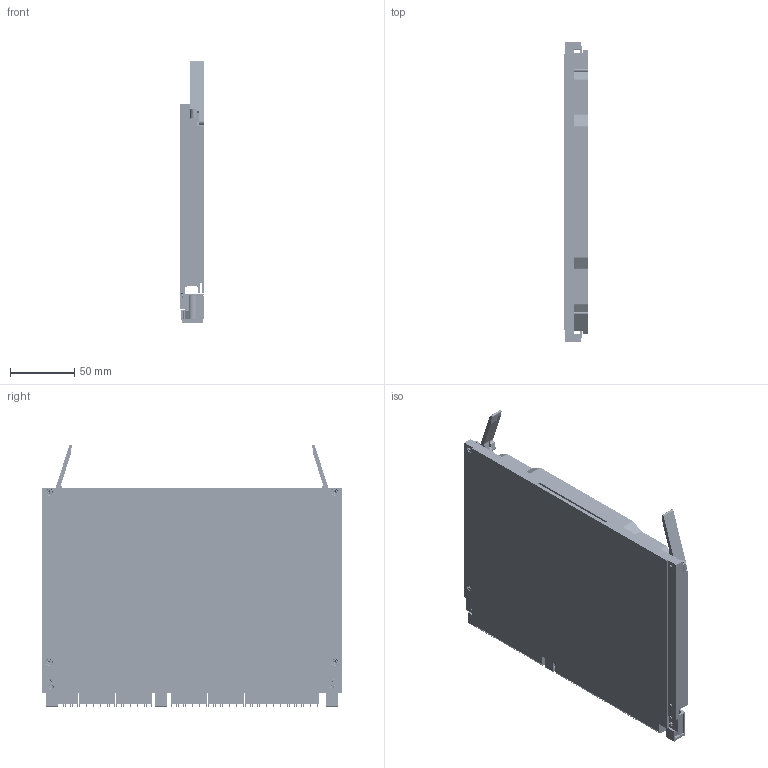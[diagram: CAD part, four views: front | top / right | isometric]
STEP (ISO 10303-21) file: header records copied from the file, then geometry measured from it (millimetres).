
FILE_DESCRIPTION (( 'STEP AP214' ), '1' );
FILE_NAME ('6U-VPX48.2-PS-265-82793 OPEN.STEP', '2018-06-18T21:10:42', ( '' ), ( '' ), 'SwSTEP 2.0', 'SolidWorks 2014', '' );
FILE_SCHEMA (( 'AUTOMOTIVE_DESIGN' ));
Length unit declared in the file: millimetre
Products named in the file (21): 265-5.00; 480-023_SDG; 322307-18_92010A016; 82793-F_82793R-F-NLE; 82793-F_82793L-F-NLE; PMC-XMC COVER; FRAME_82793_6UVPX48.2-800-265 PSR; SECONDARY SIDE COVER; Single Mezzanine board assembly; 6U-VPX48.2-PS-265-82793 OPEN; c-2102060-1-e-3d; 714362164; PMC-XMC BOARD_PMC XMC VITA 20 VITA 42; VPX BOARD ASSEMBLY_6UXMC VITA 42 board only; 714390164; c-2102061-1-g-3d; 1410189-3; 1774226_1-1469492-9; 1410187-3; VPX BOARD_6UVPX48.2; CCA FRAME ASSEMBLY_82793_6UVPX48.2-800-265 FRAME ASSY FULLY EXTRACTED
Assembly tree (56 placements, depth 3):
  6U-VPX48.2-PS-265-82793 OPEN
    CCA FRAME ASSEMBLY_82793_6UVPX48.2-800-265 FRAME ASSY FULLY EXTRACTED
      FRAME_82793_6UVPX48.2-800-265 PSR
      82793-F_82793L-F-NLE
      82793-F_82793R-F-NLE
      322307-18_92010A016  x6
      480-023_SDG  x2
      265-5.00  x2
    322307-18_92010A016  x14
    VPX BOARD ASSEMBLY_6UXMC VITA 42 board only
      VPX BOARD_6UVPX48.2
      1410187-3  x6
      1774226_1-1469492-9  x3
      1410189-3
      c-2102061-1-g-3d  x2
      714390164  x4
    Single Mezzanine board assembly
      PMC-XMC BOARD_PMC XMC VITA 20 VITA 42
      714362164  x4
      c-2102060-1-e-3d  x2
    SECONDARY SIDE COVER
    PMC-XMC COVER
Bounding box: 19.09 x 233.35 x 203.87 mm (x, y, z)
Volume: 323576.7 mm3; surface area: 370006.7 mm2
Topology: 309 solids, 309 shells, 25027 faces, 67209 edges, 44345 vertices
Faces by surface type: plane 21575, cylinder 2529, bspline 583, cone 340
Full cylindrical faces by diameter (mm): 0.43 x26, 0.5 x228, 1.05 x33, 1.2 x16, 1.6 x10, 2.05 x8, 2.2 x15, 2.381 x8, 2.5 x200, 2.55 x22, 2.7 x20, 2.9 x10, 3 x3, 3.1 x8, 4.65 x3, 5.5 x18, 5.715 x2, 5.9 x3
Entity records: 258208 total; most frequent: CARTESIAN_POINT 66395, ORIENTED_EDGE 39462, DIRECTION 36219, EDGE_CURVE 19731, LINE 17337, VECTOR 17337, VERTEX_POINT 13241, EDGE_LOOP 9500
